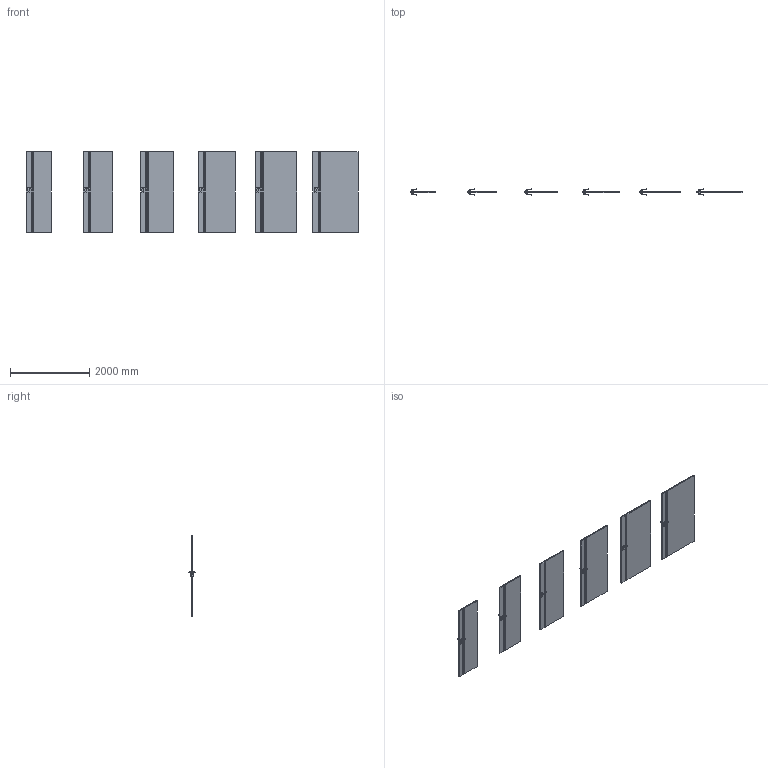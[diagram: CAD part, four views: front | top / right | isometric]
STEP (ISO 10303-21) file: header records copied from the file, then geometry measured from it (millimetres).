
FILE_DESCRIPTION(/* description */ (''),/* implementation_level */ '2;1');
FILE_NAME(/* name */ '049686_B_2-Skrzydło VECTOR B_ polska norma _PN__ odwrotna przylga..stp',/* time_stamp */ '2024-02-20T11:42:13+01:00',/* author */ (''),/* organization */ (''),/* preprocessor_version */ 'ST-DEVELOPER v16',/* originating_system */ 'SIEMENS PLM Software NX 11.0',/* authorisation */ '');
FILE_SCHEMA (('AUTOMOTIVE_DESIGN { 1 0 10303 214 3 1 1 1 }'));
Length unit declared in the file: millimetre
Products named in the file (1): bkni63CC6E915ges
Bounding box: 8389 x 153.27 x 2027 mm (x, y, z)
Volume: 421683534.9 mm3; surface area: 23356421.7 mm2
Topology: 30 solids, 30 shells, 1356 faces, 3360 edges, 1944 vertices
Faces by surface type: plane 588, cylinder 408, bspline 192, sphere 168
Entity records: 45496 total; most frequent: CARTESIAN_POINT 14917, ORIENTED_EDGE 6384, DIRECTION 6170, EDGE_CURVE 3192, AXIS2_PLACEMENT_3D 2173, VERTEX_POINT 1944, LINE 1824, VECTOR 1824
